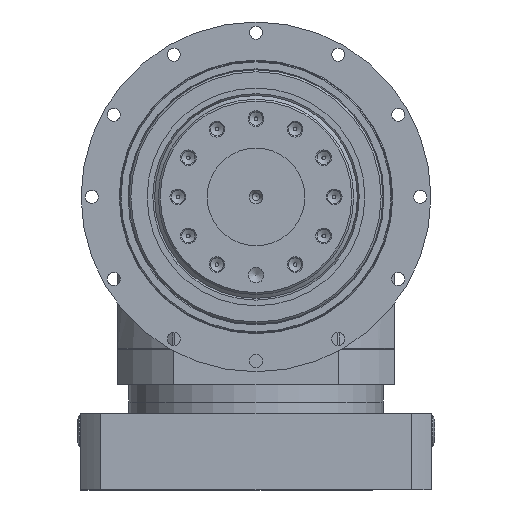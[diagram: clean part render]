
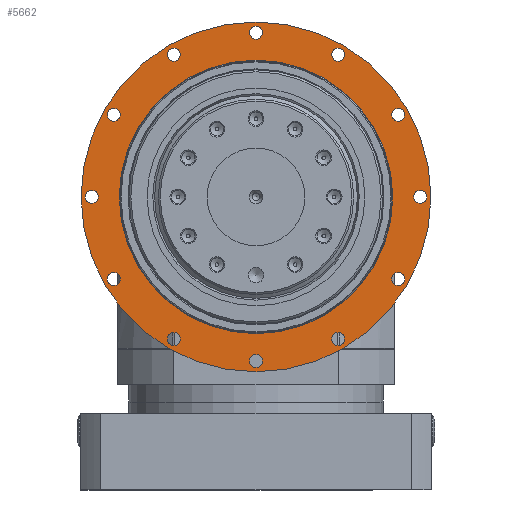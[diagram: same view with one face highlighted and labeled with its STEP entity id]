
A CAD part, left-side view. The second image highlights one B-rep face of the part: STEP entity #5662.
In plain terms, the highlighted planar face has unit normal (-1, 0, 0).
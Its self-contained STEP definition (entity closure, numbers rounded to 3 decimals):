
#66 = DIRECTION ( 'NONE',  ( -1., 0., 0. ) ) ;
#443 = DIRECTION ( 'NONE',  ( -1., 0., 0. ) ) ;
#489 = CARTESIAN_POINT ( 'NONE',  ( -48.5, -42., 76.046 ) ) ;
#496 = CARTESIAN_POINT ( 'NONE',  ( -48.5, -72.746, 42. ) ) ;
#664 = EDGE_CURVE ( 'NONE', #1797, #1797, #11605, .T. ) ;
#674 = CIRCLE ( 'NONE', #2723, 3.3 ) ;
#691 = DIRECTION ( 'NONE',  ( -1., 0., 0. ) ) ;
#881 = FACE_BOUND ( 'NONE', #6587, .T. ) ;
#973 = AXIS2_PLACEMENT_3D ( 'NONE', #15843, #443, #9438 ) ;
#1070 = CIRCLE ( 'NONE', #4136, 89.5 ) ;
#1107 = DIRECTION ( 'NONE',  ( -1., 0., 0. ) ) ;
#1164 = EDGE_CURVE ( 'NONE', #6854, #6854, #15997, .T. ) ;
#1196 = VERTEX_POINT ( 'NONE', #4208 ) ;
#1389 = DIRECTION ( 'NONE',  ( 0., 0., 1. ) ) ;
#1568 = VERTEX_POINT ( 'NONE', #10790 ) ;
#1639 = CARTESIAN_POINT ( 'NONE',  ( -48.5, 0., -84. ) ) ;
#1675 = DIRECTION ( 'NONE',  ( -1., 0., 0. ) ) ;
#1792 = AXIS2_PLACEMENT_3D ( 'NONE', #8231, #12078, #9356 ) ;
#1797 = VERTEX_POINT ( 'NONE', #15602 ) ;
#2127 = ORIENTED_EDGE ( 'NONE', *, *, #3491, .F. ) ;
#2381 = ORIENTED_EDGE ( 'NONE', *, *, #1164, .F. ) ;
#2468 = CIRCLE ( 'NONE', #4047, 3.3 ) ;
#2723 = AXIS2_PLACEMENT_3D ( 'NONE', #8932, #1107, #10000 ) ;
#2831 = CARTESIAN_POINT ( 'NONE',  ( -48.5, 42., -69.446 ) ) ;
#2842 = DIRECTION ( 'NONE',  ( -1., 0., 0. ) ) ;
#2925 = AXIS2_PLACEMENT_3D ( 'NONE', #12760, #8803, #13986 ) ;
#3077 = DIRECTION ( 'NONE',  ( 0., 0., 1. ) ) ;
#3289 = EDGE_CURVE ( 'NONE', #9237, #9237, #8773, .T. ) ;
#3344 = CIRCLE ( 'NONE', #2925, 3.3 ) ;
#3385 = VERTEX_POINT ( 'NONE', #489 ) ;
#3439 = CARTESIAN_POINT ( 'NONE',  ( -48.5, 0., 0. ) ) ;
#3491 = EDGE_CURVE ( 'NONE', #5222, #5222, #9575, .T. ) ;
#3496 = EDGE_LOOP ( 'NONE', ( #2127 ) ) ;
#3511 = EDGE_CURVE ( 'NONE', #5824, #5824, #8361, .T. ) ;
#3769 = AXIS2_PLACEMENT_3D ( 'NONE', #5497, #14505, #6792 ) ;
#3965 = ORIENTED_EDGE ( 'NONE', *, *, #3511, .F. ) ;
#3984 = CARTESIAN_POINT ( 'NONE',  ( -48.5, 42., -72.746 ) ) ;
#4027 = EDGE_LOOP ( 'NONE', ( #13474 ) ) ;
#4047 = AXIS2_PLACEMENT_3D ( 'NONE', #496, #14519, #9503 ) ;
#4136 = AXIS2_PLACEMENT_3D ( 'NONE', #3439, #12482, #7350 ) ;
#4160 = AXIS2_PLACEMENT_3D ( 'NONE', #9098, #2842, #11860 ) ;
#4208 = CARTESIAN_POINT ( 'NONE',  ( -48.5, -42., -69.446 ) ) ;
#4264 = CARTESIAN_POINT ( 'NONE',  ( -48.5, 72.746, -38.7 ) ) ;
#4488 = FACE_BOUND ( 'NONE', #6249, .T. ) ;
#4807 = EDGE_CURVE ( 'NONE', #1196, #1196, #674, .T. ) ;
#4909 = FACE_BOUND ( 'NONE', #6006, .T. ) ;
#5222 = VERTEX_POINT ( 'NONE', #5273 ) ;
#5273 = CARTESIAN_POINT ( 'NONE',  ( -48.5, 0., 70. ) ) ;
#5497 = CARTESIAN_POINT ( 'NONE',  ( -48.5, 72.746, 42. ) ) ;
#5662 = ADVANCED_FACE ( 'NONE', ( #8731, #881, #15162, #12959, #11754, #14763, #12168, #10518, #4909, #7923, #11354, #4488, #13965, #7109 ), #14460, .F. ) ;
#5790 = EDGE_CURVE ( 'NONE', #6244, #6244, #2468, .T. ) ;
#5824 = VERTEX_POINT ( 'NONE', #2831 ) ;
#5842 = EDGE_CURVE ( 'NONE', #3385, #3385, #13351, .T. ) ;
#5924 = AXIS2_PLACEMENT_3D ( 'NONE', #8404, #691, #9707 ) ;
#6006 = EDGE_LOOP ( 'NONE', ( #6498 ) ) ;
#6244 = VERTEX_POINT ( 'NONE', #13224 ) ;
#6249 = EDGE_LOOP ( 'NONE', ( #8788 ) ) ;
#6318 = CARTESIAN_POINT ( 'NONE',  ( -48.5, 89.5, 0. ) ) ;
#6498 = ORIENTED_EDGE ( 'NONE', *, *, #9588, .F. ) ;
#6587 = EDGE_LOOP ( 'NONE', ( #3965 ) ) ;
#6716 = AXIS2_PLACEMENT_3D ( 'NONE', #13311, #9416, #8128 ) ;
#6743 = DIRECTION ( 'NONE',  ( 0., 0., 1. ) ) ;
#6754 = ORIENTED_EDGE ( 'NONE', *, *, #8471, .F. ) ;
#6779 = EDGE_CURVE ( 'NONE', #1568, #1568, #16350, .T. ) ;
#6792 = DIRECTION ( 'NONE',  ( 0., 0., 1. ) ) ;
#6854 = VERTEX_POINT ( 'NONE', #10484 ) ;
#6986 = EDGE_LOOP ( 'NONE', ( #10107 ) ) ;
#7109 = FACE_OUTER_BOUND ( 'NONE', #12922, .T. ) ;
#7130 = CARTESIAN_POINT ( 'NONE',  ( -48.5, -84., 3.3 ) ) ;
#7201 = EDGE_CURVE ( 'NONE', #12679, #12679, #15913, .T. ) ;
#7350 = DIRECTION ( 'NONE',  ( 0., 0., 1. ) ) ;
#7773 = CARTESIAN_POINT ( 'NONE',  ( -48.5, 0., 0. ) ) ;
#7923 = FACE_BOUND ( 'NONE', #13291, .T. ) ;
#7973 = AXIS2_PLACEMENT_3D ( 'NONE', #1639, #10545, #1389 ) ;
#8128 = DIRECTION ( 'NONE',  ( 0., 0., 1. ) ) ;
#8231 = CARTESIAN_POINT ( 'NONE',  ( -48.5, 72.746, -42. ) ) ;
#8233 = VERTEX_POINT ( 'NONE', #7130 ) ;
#8287 = ORIENTED_EDGE ( 'NONE', *, *, #5842, .F. ) ;
#8361 = CIRCLE ( 'NONE', #8439, 3.3 ) ;
#8404 = CARTESIAN_POINT ( 'NONE',  ( -48.5, 0., 84. ) ) ;
#8439 = AXIS2_PLACEMENT_3D ( 'NONE', #3984, #10556, #11761 ) ;
#8471 = EDGE_CURVE ( 'NONE', #10062, #10062, #10070, .T. ) ;
#8598 = CARTESIAN_POINT ( 'NONE',  ( -48.5, 0., 89.5 ) ) ;
#8731 = FACE_BOUND ( 'NONE', #13542, .T. ) ;
#8773 = CIRCLE ( 'NONE', #6716, 3.3 ) ;
#8788 = ORIENTED_EDGE ( 'NONE', *, *, #6779, .F. ) ;
#8803 = DIRECTION ( 'NONE',  ( -1., 0., 0. ) ) ;
#8932 = CARTESIAN_POINT ( 'NONE',  ( -48.5, -42., -72.746 ) ) ;
#9098 = CARTESIAN_POINT ( 'NONE',  ( -48.5, 84., 0. ) ) ;
#9237 = VERTEX_POINT ( 'NONE', #10536 ) ;
#9330 = CARTESIAN_POINT ( 'NONE',  ( -48.5, 0., -80.7 ) ) ;
#9356 = DIRECTION ( 'NONE',  ( 0., 0., 1. ) ) ;
#9416 = DIRECTION ( 'NONE',  ( -1., 0., 0. ) ) ;
#9438 = DIRECTION ( 'NONE',  ( 0., 0., 1. ) ) ;
#9503 = DIRECTION ( 'NONE',  ( 0., 0., 1. ) ) ;
#9575 = CIRCLE ( 'NONE', #12770, 70. ) ;
#9588 = EDGE_CURVE ( 'NONE', #15270, #15270, #13463, .T. ) ;
#9707 = DIRECTION ( 'NONE',  ( 0., 0., 1. ) ) ;
#10000 = DIRECTION ( 'NONE',  ( 0., 0., 1. ) ) ;
#10062 = VERTEX_POINT ( 'NONE', #9330 ) ;
#10070 = CIRCLE ( 'NONE', #7973, 3.3 ) ;
#10107 = ORIENTED_EDGE ( 'NONE', *, *, #5790, .F. ) ;
#10233 = DIRECTION ( 'NONE',  ( 1., 0., 0. ) ) ;
#10256 = VERTEX_POINT ( 'NONE', #8598 ) ;
#10276 = ORIENTED_EDGE ( 'NONE', *, *, #12407, .F. ) ;
#10462 = ORIENTED_EDGE ( 'NONE', *, *, #14511, .T. ) ;
#10484 = CARTESIAN_POINT ( 'NONE',  ( -48.5, 42., 76.046 ) ) ;
#10518 = FACE_BOUND ( 'NONE', #11111, .T. ) ;
#10536 = CARTESIAN_POINT ( 'NONE',  ( -48.5, -72.746, -38.7 ) ) ;
#10545 = DIRECTION ( 'NONE',  ( -1., 0., 0. ) ) ;
#10556 = DIRECTION ( 'NONE',  ( -1., 0., 0. ) ) ;
#10790 = CARTESIAN_POINT ( 'NONE',  ( -48.5, 84., 3.3 ) ) ;
#11111 = EDGE_LOOP ( 'NONE', ( #8287 ) ) ;
#11321 = EDGE_LOOP ( 'NONE', ( #14490 ) ) ;
#11354 = FACE_BOUND ( 'NONE', #16406, .T. ) ;
#11605 = CIRCLE ( 'NONE', #3769, 3.3 ) ;
#11754 = FACE_BOUND ( 'NONE', #4027, .T. ) ;
#11761 = DIRECTION ( 'NONE',  ( 0., 0., 1. ) ) ;
#11860 = DIRECTION ( 'NONE',  ( 0., 0., 1. ) ) ;
#12078 = DIRECTION ( 'NONE',  ( -1., 0., 0. ) ) ;
#12168 = FACE_BOUND ( 'NONE', #6986, .T. ) ;
#12302 = EDGE_LOOP ( 'NONE', ( #10276 ) ) ;
#12407 = EDGE_CURVE ( 'NONE', #8233, #8233, #3344, .T. ) ;
#12482 = DIRECTION ( 'NONE',  ( -1., 0., 0. ) ) ;
#12679 = VERTEX_POINT ( 'NONE', #4264 ) ;
#12760 = CARTESIAN_POINT ( 'NONE',  ( -48.5, -84., 0. ) ) ;
#12770 = AXIS2_PLACEMENT_3D ( 'NONE', #7773, #66, #6743 ) ;
#12922 = EDGE_LOOP ( 'NONE', ( #10462 ) ) ;
#12959 = FACE_BOUND ( 'NONE', #11321, .T. ) ;
#13224 = CARTESIAN_POINT ( 'NONE',  ( -48.5, -72.746, 45.3 ) ) ;
#13291 = EDGE_LOOP ( 'NONE', ( #2381 ) ) ;
#13311 = CARTESIAN_POINT ( 'NONE',  ( -48.5, -72.746, -42. ) ) ;
#13351 = CIRCLE ( 'NONE', #16668, 3.3 ) ;
#13463 = CIRCLE ( 'NONE', #5924, 3.3 ) ;
#13474 = ORIENTED_EDGE ( 'NONE', *, *, #3289, .F. ) ;
#13542 = EDGE_LOOP ( 'NONE', ( #14495 ) ) ;
#13965 = FACE_BOUND ( 'NONE', #3496, .T. ) ;
#13986 = DIRECTION ( 'NONE',  ( 0., 0., 1. ) ) ;
#14137 = DIRECTION ( 'NONE',  ( 0., 0., -1. ) ) ;
#14399 = AXIS2_PLACEMENT_3D ( 'NONE', #6318, #10233, #14137 ) ;
#14460 = PLANE ( 'NONE',  #14399 ) ;
#14490 = ORIENTED_EDGE ( 'NONE', *, *, #4807, .F. ) ;
#14495 = ORIENTED_EDGE ( 'NONE', *, *, #7201, .F. ) ;
#14505 = DIRECTION ( 'NONE',  ( -1., 0., 0. ) ) ;
#14511 = EDGE_CURVE ( 'NONE', #10256, #10256, #1070, .T. ) ;
#14519 = DIRECTION ( 'NONE',  ( -1., 0., 0. ) ) ;
#14763 = FACE_BOUND ( 'NONE', #12302, .T. ) ;
#15162 = FACE_BOUND ( 'NONE', #15861, .T. ) ;
#15270 = VERTEX_POINT ( 'NONE', #16177 ) ;
#15602 = CARTESIAN_POINT ( 'NONE',  ( -48.5, 72.746, 45.3 ) ) ;
#15843 = CARTESIAN_POINT ( 'NONE',  ( -48.5, 42., 72.746 ) ) ;
#15861 = EDGE_LOOP ( 'NONE', ( #6754 ) ) ;
#15913 = CIRCLE ( 'NONE', #1792, 3.3 ) ;
#15957 = CARTESIAN_POINT ( 'NONE',  ( -48.5, -42., 72.746 ) ) ;
#15997 = CIRCLE ( 'NONE', #973, 3.3 ) ;
#16177 = CARTESIAN_POINT ( 'NONE',  ( -48.5, 0., 87.3 ) ) ;
#16348 = ORIENTED_EDGE ( 'NONE', *, *, #664, .F. ) ;
#16350 = CIRCLE ( 'NONE', #4160, 3.3 ) ;
#16406 = EDGE_LOOP ( 'NONE', ( #16348 ) ) ;
#16668 = AXIS2_PLACEMENT_3D ( 'NONE', #15957, #1675, #3077 ) ;
